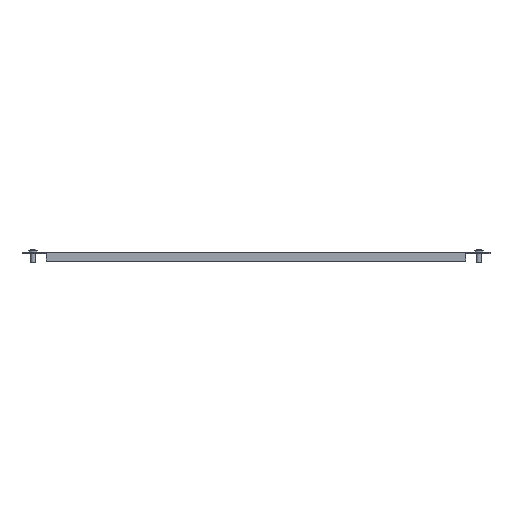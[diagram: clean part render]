
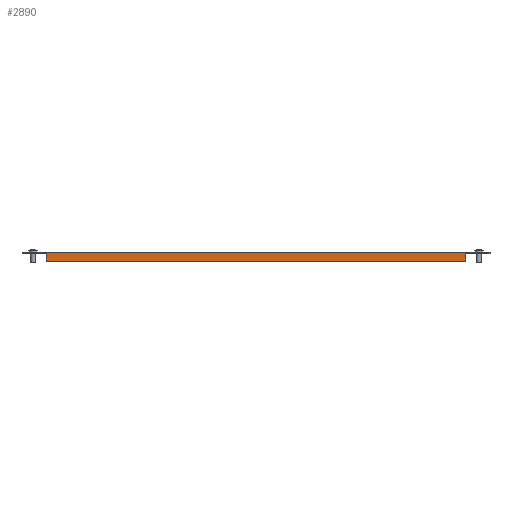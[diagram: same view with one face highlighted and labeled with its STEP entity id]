
A CAD part, front view. The second image highlights one B-rep face of the part: STEP entity #2890.
In plain terms, the highlighted planar face has unit normal (0, -1, 0).
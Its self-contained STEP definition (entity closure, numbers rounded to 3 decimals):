
#30 = VECTOR ( 'NONE', #4170, 1000. ) ;
#104 = VERTEX_POINT ( 'NONE', #1181 ) ;
#304 = DIRECTION ( 'NONE',  ( -1., 0., 0. ) ) ;
#333 = PLANE ( 'NONE',  #556 ) ;
#357 = ORIENTED_EDGE ( 'NONE', *, *, #742, .T. ) ;
#455 = EDGE_CURVE ( 'NONE', #925, #3407, #1088, .T. ) ;
#474 = EDGE_LOOP ( 'NONE', ( #1876, #357, #2873, #4218, #1457, #3742 ) ) ;
#556 = AXIS2_PLACEMENT_3D ( 'NONE', #648, #2688, #3643 ) ;
#622 = VERTEX_POINT ( 'NONE', #1196 ) ;
#648 = CARTESIAN_POINT ( 'NONE',  ( 0., -199., 0. ) ) ;
#742 = EDGE_CURVE ( 'NONE', #4089, #622, #2231, .T. ) ;
#925 = VERTEX_POINT ( 'NONE', #1653 ) ;
#1088 = LINE ( 'NONE', #3955, #2572 ) ;
#1181 = CARTESIAN_POINT ( 'NONE',  ( 235.5, -199., -10. ) ) ;
#1187 = VERTEX_POINT ( 'NONE', #3839 ) ;
#1196 = CARTESIAN_POINT ( 'NONE',  ( 235.5, -199., 0. ) ) ;
#1375 = DIRECTION ( 'NONE',  ( 0., 0., 1. ) ) ;
#1457 = ORIENTED_EDGE ( 'NONE', *, *, #455, .F. ) ;
#1548 = VECTOR ( 'NONE', #2402, 1000. ) ;
#1653 = CARTESIAN_POINT ( 'NONE',  ( -235.5, -199., -10. ) ) ;
#1703 = LINE ( 'NONE', #3311, #1548 ) ;
#1768 = EDGE_CURVE ( 'NONE', #4089, #104, #1703, .T. ) ;
#1773 = VECTOR ( 'NONE', #304, 1000. ) ;
#1810 = EDGE_CURVE ( 'NONE', #3407, #1187, #3700, .T. ) ;
#1876 = ORIENTED_EDGE ( 'NONE', *, *, #1768, .F. ) ;
#1993 = CARTESIAN_POINT ( 'NONE',  ( 235.5, -199., -2.4 ) ) ;
#2077 = LINE ( 'NONE', #3690, #2782 ) ;
#2231 = LINE ( 'NONE', #3183, #30 ) ;
#2402 = DIRECTION ( 'NONE',  ( 0., 0., -1. ) ) ;
#2572 = VECTOR ( 'NONE', #1375, 1000. ) ;
#2688 = DIRECTION ( 'NONE',  ( 0., -1., 0. ) ) ;
#2782 = VECTOR ( 'NONE', #3360, 1000. ) ;
#2848 = EDGE_CURVE ( 'NONE', #104, #925, #4130, .T. ) ;
#2873 = ORIENTED_EDGE ( 'NONE', *, *, #4161, .T. ) ;
#2890 = ADVANCED_FACE ( 'NONE', ( #3261 ), #333, .T. ) ;
#3183 = CARTESIAN_POINT ( 'NONE',  ( 235.5, -199., -2.4 ) ) ;
#3236 = CARTESIAN_POINT ( 'NONE',  ( -235.5, -199., -10. ) ) ;
#3261 = FACE_OUTER_BOUND ( 'NONE', #474, .T. ) ;
#3291 = DIRECTION ( 'NONE',  ( 0., 0., 1. ) ) ;
#3311 = CARTESIAN_POINT ( 'NONE',  ( 235.5, -199., -10. ) ) ;
#3360 = DIRECTION ( 'NONE',  ( -1., 0., 0. ) ) ;
#3407 = VERTEX_POINT ( 'NONE', #4022 ) ;
#3643 = DIRECTION ( 'NONE',  ( 0., 0., -1. ) ) ;
#3690 = CARTESIAN_POINT ( 'NONE',  ( 0., -199., 0. ) ) ;
#3700 = LINE ( 'NONE', #3981, #3930 ) ;
#3742 = ORIENTED_EDGE ( 'NONE', *, *, #2848, .F. ) ;
#3839 = CARTESIAN_POINT ( 'NONE',  ( -235.5, -199., 0. ) ) ;
#3930 = VECTOR ( 'NONE', #3291, 1000. ) ;
#3955 = CARTESIAN_POINT ( 'NONE',  ( -235.5, -199., -1.8 ) ) ;
#3981 = CARTESIAN_POINT ( 'NONE',  ( -235.5, -199., 0. ) ) ;
#4022 = CARTESIAN_POINT ( 'NONE',  ( -235.5, -199., -2.4 ) ) ;
#4089 = VERTEX_POINT ( 'NONE', #1993 ) ;
#4130 = LINE ( 'NONE', #3236, #1773 ) ;
#4161 = EDGE_CURVE ( 'NONE', #622, #1187, #2077, .T. ) ;
#4170 = DIRECTION ( 'NONE',  ( 0., 0., 1. ) ) ;
#4218 = ORIENTED_EDGE ( 'NONE', *, *, #1810, .F. ) ;
